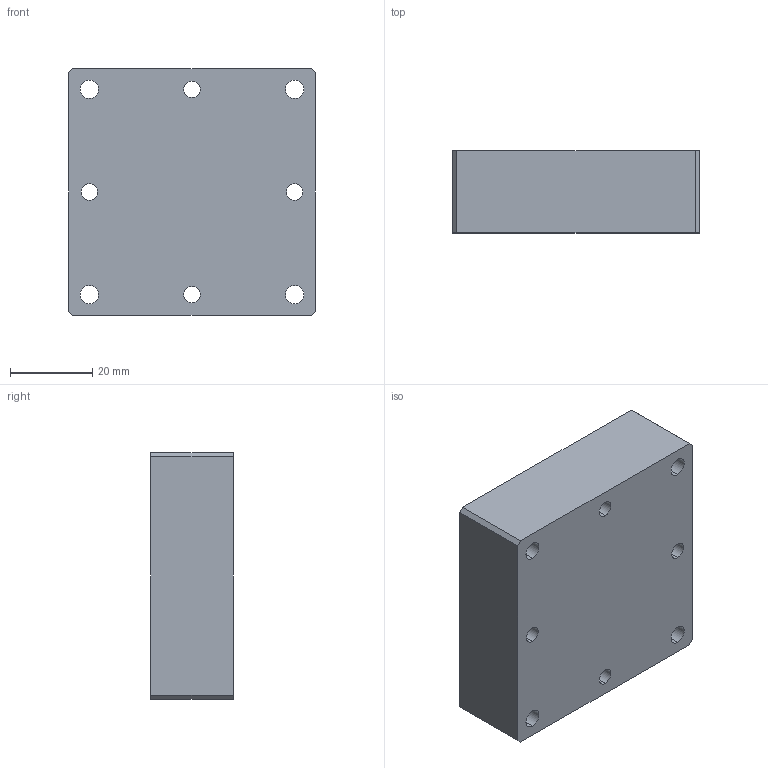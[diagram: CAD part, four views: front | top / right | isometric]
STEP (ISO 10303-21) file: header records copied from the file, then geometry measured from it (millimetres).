
FILE_DESCRIPTION (( 'STEP AP203' ), '1' );
FILE_NAME ('SS-6011-5.STEP', '2020-02-19T06:31:19', ( '' ), ( '' ), 'SwSTEP 2.0', 'SolidWorks 2016', '' );
FILE_SCHEMA (( 'CONFIG_CONTROL_DESIGN' ));
Length unit declared in the file: millimetre
Products named in the file (2): SS-6011-5-1; SS-6011-5
Assembly tree (1 placements, depth 2):
  SS-6011-5
    SS-6011-5-1
Bounding box: 60 x 20 x 60 mm (x, y, z)
Volume: 67985.9 mm3; surface area: 14423.1 mm2
Topology: 1 solids, 1 shells, 38 faces, 96 edges, 64 vertices
Faces by surface type: cylinder 24, plane 14
Entity records: 1396 total; most frequent: DIRECTION 228, CARTESIAN_POINT 202, ORIENTED_EDGE 192, EDGE_CURVE 96, AXIS2_PLACEMENT_3D 90, VERTEX_POINT 64, EDGE_LOOP 58, VECTOR 48
